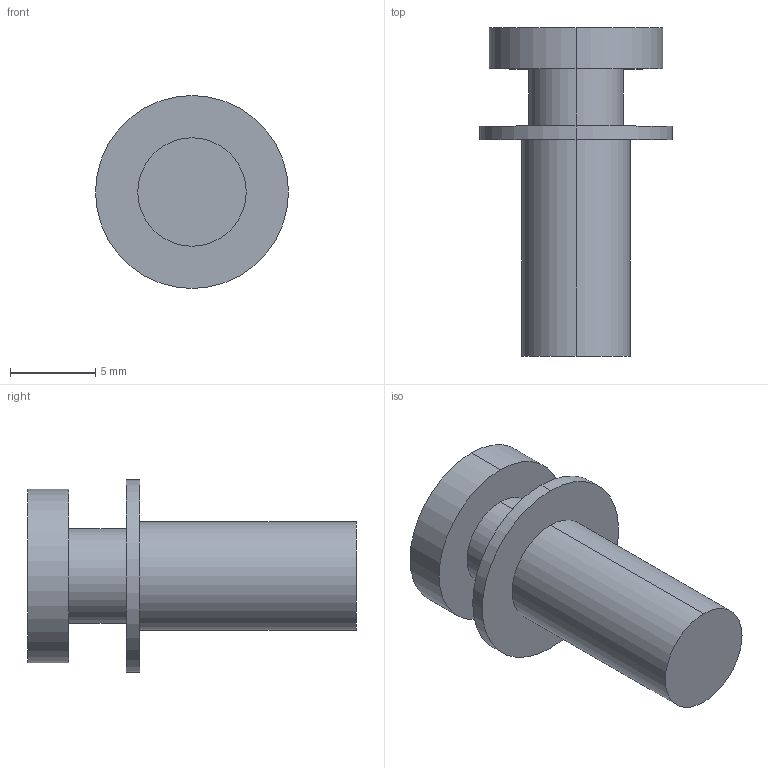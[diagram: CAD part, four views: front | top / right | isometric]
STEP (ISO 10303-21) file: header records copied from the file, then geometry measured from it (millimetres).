
FILE_DESCRIPTION (( 'STEP AP214' ), '1' );
FILE_NAME ('6045_V01_REF_PRT_SH_SCR.STEP', '2026-01-20T15:26:52', ( '' ), ( '' ), 'SwSTEP 2.0', 'SolidWorks 2025', '' );
FILE_SCHEMA (( 'AUTOMOTIVE_DESIGN' ));
Length unit declared in the file: inch
Products named in the file (1): 6045_V01_REF_PRT_SH_SCR
Bounding box: 11.3 x 19.25 x 11.3 mm (x, y, z)
Volume: 757.6 mm3; surface area: 731.3 mm2
Topology: 1 solids, 1 shells, 13 faces, 24 edges, 16 vertices
Faces by surface type: cylinder 8, plane 5
Entity records: 361 total; most frequent: DIRECTION 68, CARTESIAN_POINT 54, ORIENTED_EDGE 48, AXIS2_PLACEMENT_3D 30, EDGE_CURVE 24, VERTEX_POINT 16, EDGE_LOOP 16, CIRCLE 16
